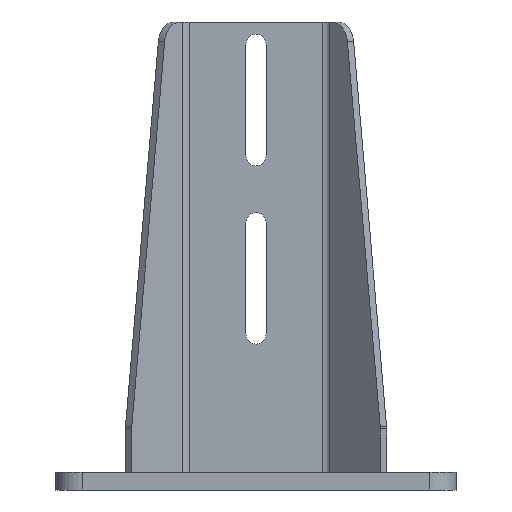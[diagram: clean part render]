
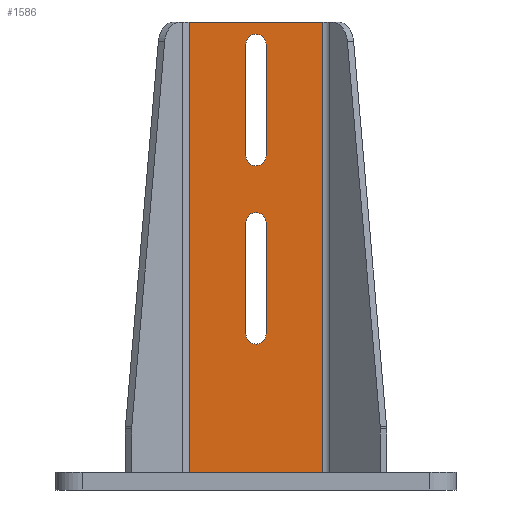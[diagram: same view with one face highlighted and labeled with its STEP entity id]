
A CAD part, front view. The second image highlights one B-rep face of the part: STEP entity #1586.
In plain terms, the highlighted planar face has unit normal (0, -1, 0) as drawn and (0, 0, 1) by its records, which use the part's own axes.
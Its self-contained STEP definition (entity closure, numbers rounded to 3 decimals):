
#51=FACE_BOUND('',#291,.T.);
#52=FACE_BOUND('',#292,.T.);
#106=PLANE('',#1766);
#188=FACE_OUTER_BOUND('',#290,.T.);
#290=EDGE_LOOP('',(#1422,#1423,#1424,#1425,#1426,#1427,#1428,#1429));
#291=EDGE_LOOP('',(#1430,#1431,#1432,#1433));
#292=EDGE_LOOP('',(#1434,#1435,#1436,#1437));
#397=LINE('',#2438,#575);
#401=LINE('',#2447,#579);
#405=LINE('',#2462,#583);
#409=LINE('',#2471,#587);
#431=LINE('',#2536,#609);
#432=LINE('',#2539,#610);
#435=LINE('',#2545,#613);
#463=LINE('',#2618,#641);
#467=LINE('',#2625,#645);
#468=LINE('',#2628,#646);
#469=LINE('',#2629,#647);
#470=LINE('',#2630,#648);
#575=VECTOR('',#1988,10.);
#579=VECTOR('',#1994,10.);
#583=VECTOR('',#2012,10.);
#587=VECTOR('',#2018,10.);
#609=VECTOR('',#2084,10.);
#610=VECTOR('',#2087,10.);
#613=VECTOR('',#2092,10.);
#641=VECTOR('',#2164,10.);
#645=VECTOR('',#2170,10.);
#646=VECTOR('',#2173,10.);
#647=VECTOR('',#2174,10.);
#648=VECTOR('',#2175,10.);
#678=CIRCLE('',#1713,4.5);
#679=CIRCLE('',#1715,4.5);
#682=CIRCLE('',#1721,4.5);
#683=CIRCLE('',#1723,4.5);
#773=VERTEX_POINT('',#2436);
#774=VERTEX_POINT('',#2437);
#777=VERTEX_POINT('',#2445);
#778=VERTEX_POINT('',#2446);
#781=VERTEX_POINT('',#2460);
#782=VERTEX_POINT('',#2461);
#785=VERTEX_POINT('',#2469);
#786=VERTEX_POINT('',#2470);
#803=VERTEX_POINT('',#2519);
#807=VERTEX_POINT('',#2529);
#808=VERTEX_POINT('',#2538);
#810=VERTEX_POINT('',#2544);
#830=VERTEX_POINT('',#2604);
#832=VERTEX_POINT('',#2610);
#835=VERTEX_POINT('',#2623);
#836=VERTEX_POINT('',#2627);
#949=EDGE_CURVE('',#773,#774,#397,.T.);
#953=EDGE_CURVE('',#777,#778,#401,.T.);
#958=EDGE_CURVE('',#774,#777,#678,.T.);
#959=EDGE_CURVE('',#778,#773,#679,.T.);
#961=EDGE_CURVE('',#781,#782,#405,.T.);
#965=EDGE_CURVE('',#785,#786,#409,.T.);
#970=EDGE_CURVE('',#782,#785,#682,.T.);
#971=EDGE_CURVE('',#786,#781,#683,.T.);
#999=EDGE_CURVE('',#803,#807,#431,.T.);
#1000=EDGE_CURVE('',#808,#807,#432,.T.);
#1003=EDGE_CURVE('',#810,#808,#435,.T.);
#1039=EDGE_CURVE('',#830,#832,#463,.T.);
#1043=EDGE_CURVE('',#835,#832,#467,.T.);
#1044=EDGE_CURVE('',#836,#835,#468,.T.);
#1045=EDGE_CURVE('',#810,#836,#469,.T.);
#1046=EDGE_CURVE('',#803,#830,#470,.T.);
#1422=ORIENTED_EDGE('',*,*,#1039,.T.);
#1423=ORIENTED_EDGE('',*,*,#1043,.F.);
#1424=ORIENTED_EDGE('',*,*,#1044,.F.);
#1425=ORIENTED_EDGE('',*,*,#1045,.F.);
#1426=ORIENTED_EDGE('',*,*,#1003,.T.);
#1427=ORIENTED_EDGE('',*,*,#1000,.T.);
#1428=ORIENTED_EDGE('',*,*,#999,.F.);
#1429=ORIENTED_EDGE('',*,*,#1046,.T.);
#1430=ORIENTED_EDGE('',*,*,#953,.T.);
#1431=ORIENTED_EDGE('',*,*,#959,.T.);
#1432=ORIENTED_EDGE('',*,*,#949,.T.);
#1433=ORIENTED_EDGE('',*,*,#958,.T.);
#1434=ORIENTED_EDGE('',*,*,#965,.T.);
#1435=ORIENTED_EDGE('',*,*,#971,.T.);
#1436=ORIENTED_EDGE('',*,*,#961,.T.);
#1437=ORIENTED_EDGE('',*,*,#970,.T.);
#1586=ADVANCED_FACE('',(#188,#51,#52),#106,.T.);
#1713=AXIS2_PLACEMENT_3D('',#2455,#2002,#2003);
#1715=AXIS2_PLACEMENT_3D('',#2457,#2006,#2007);
#1721=AXIS2_PLACEMENT_3D('',#2479,#2026,#2027);
#1723=AXIS2_PLACEMENT_3D('',#2481,#2030,#2031);
#1766=AXIS2_PLACEMENT_3D('',#2626,#2171,#2172);
#1988=DIRECTION('',(0.,-1.,0.));
#1994=DIRECTION('',(0.,1.,0.));
#2002=DIRECTION('center_axis',(0.,0.,-1.));
#2003=DIRECTION('ref_axis',(-1.,0.,0.));
#2006=DIRECTION('center_axis',(0.,0.,-1.));
#2007=DIRECTION('ref_axis',(-1.,0.,0.));
#2012=DIRECTION('',(0.,-1.,0.));
#2018=DIRECTION('',(0.,1.,0.));
#2026=DIRECTION('center_axis',(0.,0.,-1.));
#2027=DIRECTION('ref_axis',(-1.,0.,0.));
#2030=DIRECTION('center_axis',(0.,0.,-1.));
#2031=DIRECTION('ref_axis',(-1.,0.,0.));
#2084=DIRECTION('',(0.,-1.,0.));
#2087=DIRECTION('',(1.,0.,0.));
#2092=DIRECTION('',(0.,1.,0.));
#2164=DIRECTION('',(0.,-1.,0.));
#2170=DIRECTION('',(-1.,0.,0.));
#2171=DIRECTION('center_axis',(0.,0.,1.));
#2172=DIRECTION('ref_axis',(1.,0.,0.));
#2173=DIRECTION('',(0.,1.,0.));
#2174=DIRECTION('',(-1.,0.,0.));
#2175=DIRECTION('',(-1.,0.,0.));
#2436=CARTESIAN_POINT('',(39.5,112.,4.));
#2437=CARTESIAN_POINT('',(39.5,62.,4.));
#2438=CARTESIAN_POINT('',(39.5,54.25,4.));
#2445=CARTESIAN_POINT('',(30.5,62.,4.));
#2446=CARTESIAN_POINT('',(30.5,112.,4.));
#2447=CARTESIAN_POINT('',(30.5,29.25,4.));
#2455=CARTESIAN_POINT('Origin',(35.,62.,4.));
#2457=CARTESIAN_POINT('Origin',(35.,112.,4.));
#2460=CARTESIAN_POINT('',(39.5,192.,4.));
#2461=CARTESIAN_POINT('',(39.5,142.,4.));
#2462=CARTESIAN_POINT('',(39.5,94.25,4.));
#2469=CARTESIAN_POINT('',(30.5,142.,4.));
#2470=CARTESIAN_POINT('',(30.5,192.,4.));
#2471=CARTESIAN_POINT('',(30.5,69.25,4.));
#2479=CARTESIAN_POINT('Origin',(35.,142.,4.));
#2481=CARTESIAN_POINT('Origin',(35.,192.,4.));
#2519=CARTESIAN_POINT('',(65.,202.,4.));
#2529=CARTESIAN_POINT('',(65.,0.,4.));
#2536=CARTESIAN_POINT('',(65.,-1.75,4.));
#2538=CARTESIAN_POINT('',(45.,0.,4.));
#2539=CARTESIAN_POINT('',(102.,0.,4.));
#2544=CARTESIAN_POINT('',(45.,-7.,4.));
#2545=CARTESIAN_POINT('',(45.,0.,4.));
#2604=CARTESIAN_POINT('',(5.,202.,4.));
#2610=CARTESIAN_POINT('',(5.,0.,4.));
#2618=CARTESIAN_POINT('',(5.,-1.75,4.));
#2623=CARTESIAN_POINT('',(25.,0.,4.));
#2625=CARTESIAN_POINT('',(-32.,0.,4.));
#2626=CARTESIAN_POINT('Origin',(30.,-3.5,4.));
#2627=CARTESIAN_POINT('',(25.,-7.,4.));
#2628=CARTESIAN_POINT('',(25.,0.,4.));
#2629=CARTESIAN_POINT('',(25.,-7.,4.));
#2630=CARTESIAN_POINT('',(35.,202.,4.));
